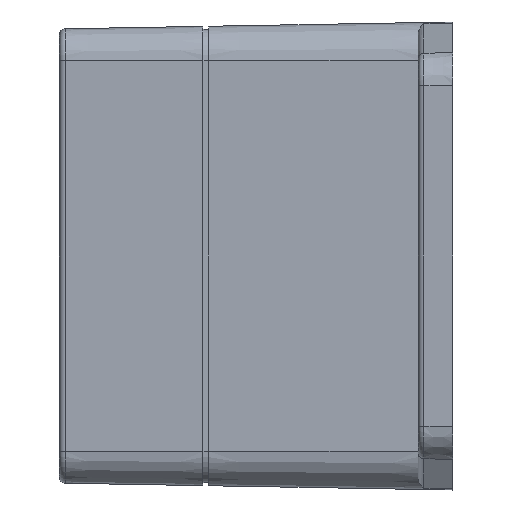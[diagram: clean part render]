
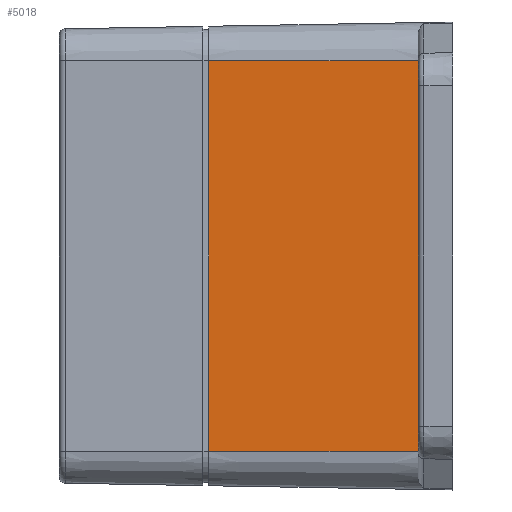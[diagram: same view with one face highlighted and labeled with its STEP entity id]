
A CAD part, left-side view. The second image highlights one B-rep face of the part: STEP entity #5018.
In plain terms, the highlighted planar face has unit normal (-1, 0.018, 0).
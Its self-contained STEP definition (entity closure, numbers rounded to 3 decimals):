
#1781 = EDGE_CURVE ( 'NONE', #10089, #10831, #22238, .T. ) ;
#3049 = VECTOR ( 'NONE', #17562, 1000. ) ;
#3344 = DIRECTION ( 'NONE',  ( -0.017, -1., 0. ) ) ;
#3593 = ORIENTED_EDGE ( 'NONE', *, *, #10597, .T. ) ;
#4501 = CARTESIAN_POINT ( 'NONE',  ( -60.653, -37.502, -33.999 ) ) ;
#5018 = ADVANCED_FACE ( 'NONE', ( #12870 ), #19855, .T. ) ;
#5563 = EDGE_LOOP ( 'NONE', ( #15012, #3593, #17931, #7938 ) ) ;
#6220 = CARTESIAN_POINT ( 'NONE',  ( -60.653, -37.502, 33.999 ) ) ;
#7094 = DIRECTION ( 'NONE',  ( 0., 0., -1. ) ) ;
#7141 = VECTOR ( 'NONE', #13569, 1000. ) ;
#7214 = LINE ( 'NONE', #18303, #17083 ) ;
#7938 = ORIENTED_EDGE ( 'NONE', *, *, #1781, .T. ) ;
#8151 = VERTEX_POINT ( 'NONE', #15398 ) ;
#8531 = CARTESIAN_POINT ( 'NONE',  ( -59.998, 0., -33.999 ) ) ;
#10089 = VERTEX_POINT ( 'NONE', #4501 ) ;
#10597 = EDGE_CURVE ( 'NONE', #19148, #8151, #7214, .T. ) ;
#10831 = VERTEX_POINT ( 'NONE', #6220 ) ;
#11346 = AXIS2_PLACEMENT_3D ( 'NONE', #12513, #23870, #3344 ) ;
#11991 = CARTESIAN_POINT ( 'NONE',  ( -60.016, -0.995, 33.999 ) ) ;
#12206 = EDGE_CURVE ( 'NONE', #10089, #8151, #12632, .T. ) ;
#12513 = CARTESIAN_POINT ( 'NONE',  ( -59.998, 0., -33.999 ) ) ;
#12632 = LINE ( 'NONE', #8531, #3049 ) ;
#12870 = FACE_OUTER_BOUND ( 'NONE', #5563, .T. ) ;
#12871 = VECTOR ( 'NONE', #16677, 1000. ) ;
#13569 = DIRECTION ( 'NONE',  ( 0.017, 1., 0. ) ) ;
#15012 = ORIENTED_EDGE ( 'NONE', *, *, #22522, .T. ) ;
#15377 = LINE ( 'NONE', #22747, #7141 ) ;
#15398 = CARTESIAN_POINT ( 'NONE',  ( -60.016, -0.995, -33.999 ) ) ;
#16677 = DIRECTION ( 'NONE',  ( 0., 0., 1. ) ) ;
#17083 = VECTOR ( 'NONE', #7094, 1000. ) ;
#17562 = DIRECTION ( 'NONE',  ( 0.017, 1., 0. ) ) ;
#17931 = ORIENTED_EDGE ( 'NONE', *, *, #12206, .F. ) ;
#18303 = CARTESIAN_POINT ( 'NONE',  ( -60.016, -0.995, -33.999 ) ) ;
#18376 = CARTESIAN_POINT ( 'NONE',  ( -60.653, -37.502, -33.999 ) ) ;
#19148 = VERTEX_POINT ( 'NONE', #11991 ) ;
#19855 = PLANE ( 'NONE',  #11346 ) ;
#22238 = LINE ( 'NONE', #18376, #12871 ) ;
#22522 = EDGE_CURVE ( 'NONE', #10831, #19148, #15377, .T. ) ;
#22747 = CARTESIAN_POINT ( 'NONE',  ( -59.999, 0., 33.999 ) ) ;
#23870 = DIRECTION ( 'NONE',  ( -1., 0.017, 0. ) ) ;
